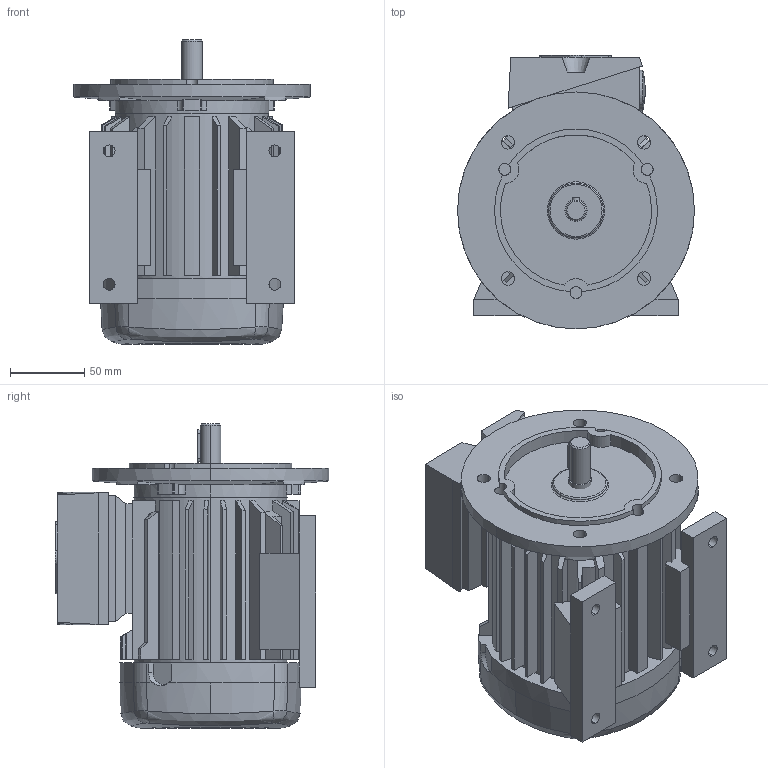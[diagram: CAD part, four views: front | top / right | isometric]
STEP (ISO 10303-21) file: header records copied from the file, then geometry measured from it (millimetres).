
FILE_DESCRIPTION (( 'STEP AP214' ), '1' );
FILE_NAME ('IE3-W42R71_B35FF130.STEP', '2024-10-22T03:42:10', ( '' ), ( '' ), 'SwSTEP 2.0', 'SolidWorks 2023', '' );
FILE_SCHEMA (( 'AUTOMOTIVE_DESIGN' ));
Length unit declared in the file: millimetre
Products named in the file (11): LHB_Kat_LHB06; KD05_Kat; KA05_Kat; RFG07_Kat; Verschlussschraube_M25; Fuss_IEC_Kat_F_IEC071; KA05_komplett_Kat_VSS_2xM25; WE_Kat_14x30; IE3-W42R71_B35FF130; LF_FF_Kat_07FF130; RG 06_Kat
Assembly tree (12 placements, depth 3):
  IE3-W42R71_B35FF130
    RFG07_Kat
      Fuss_IEC_Kat_F_IEC071  x2
      RG 06_Kat
    KA05_komplett_Kat_VSS_2xM25
      KA05_Kat
      KD05_Kat
      Verschlussschraube_M25  x2
    LHB_Kat_LHB06
    WE_Kat_14x30
    LF_FF_Kat_07FF130
Bounding box: 160 x 185 x 205.5 mm (x, y, z)
Volume: 2439956 mm3; surface area: 285572.1 mm2
Topology: 10 solids, 10 shells, 433 faces, 1102 edges, 722 vertices
Faces by surface type: plane 233, cylinder 140, cone 42, bspline 8, torus 6, sphere 4
Entity records: 13338 total; most frequent: CARTESIAN_POINT 3261, ORIENTED_EDGE 2040, DIRECTION 2030, EDGE_CURVE 1020, AXIS2_PLACEMENT_3D 727, VERTEX_POINT 668, LINE 576, VECTOR 576
